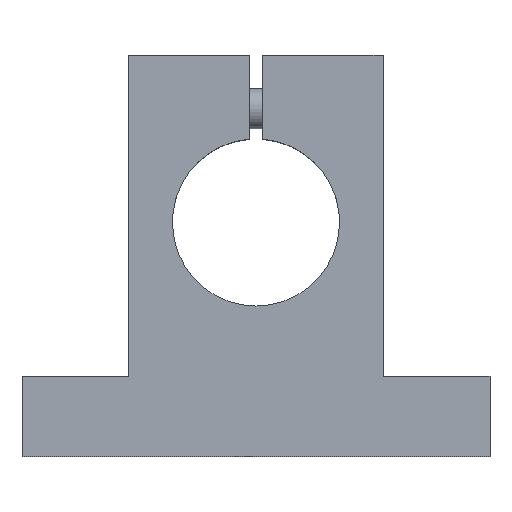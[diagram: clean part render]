
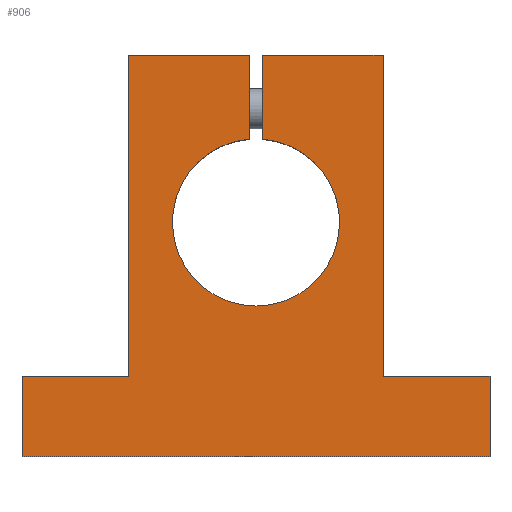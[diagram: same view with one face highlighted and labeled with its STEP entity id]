
A CAD part, top view. The second image highlights one B-rep face of the part: STEP entity #906.
In plain terms, the highlighted planar face has unit normal (0, 0, 1).
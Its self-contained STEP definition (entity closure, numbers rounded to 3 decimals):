
#5 = LINE ( 'NONE', #761, #370 ) ;
#6 = CARTESIAN_POINT ( 'NONE',  ( 0., 0., 0. ) ) ;
#9 = VECTOR ( 'NONE', #698, 1000. ) ;
#13 = VECTOR ( 'NONE', #957, 1000. ) ;
#16 = CIRCLE ( 'NONE', #68, 12.5 ) ;
#57 = CARTESIAN_POINT ( 'NONE',  ( 19., 25., 0. ) ) ;
#63 = CARTESIAN_POINT ( 'NONE',  ( 19., 25., 0. ) ) ;
#68 = AXIS2_PLACEMENT_3D ( 'NONE', #489, #158, #251 ) ;
#77 = LINE ( 'NONE', #449, #13 ) ;
#93 = VERTEX_POINT ( 'NONE', #982 ) ;
#95 = CARTESIAN_POINT ( 'NONE',  ( 1., 0., 0. ) ) ;
#98 = EDGE_CURVE ( 'NONE', #756, #1001, #16, .T. ) ;
#104 = DIRECTION ( 'NONE',  ( 0., 1., 0. ) ) ;
#115 = VERTEX_POINT ( 'NONE', #1087 ) ;
#120 = VERTEX_POINT ( 'NONE', #854 ) ;
#138 = ORIENTED_EDGE ( 'NONE', *, *, #970, .T. ) ;
#143 = EDGE_CURVE ( 'NONE', #474, #307, #916, .T. ) ;
#150 = EDGE_CURVE ( 'NONE', #1001, #732, #925, .T. ) ;
#156 = CARTESIAN_POINT ( 'NONE',  ( -35., -35., 0. ) ) ;
#158 = DIRECTION ( 'NONE',  ( 0., 0., -1. ) ) ;
#159 = VECTOR ( 'NONE', #275, 1000. ) ;
#188 = DIRECTION ( 'NONE',  ( 0., 0., 1. ) ) ;
#199 = VERTEX_POINT ( 'NONE', #495 ) ;
#201 = CARTESIAN_POINT ( 'NONE',  ( -35., -23., 0. ) ) ;
#207 = AXIS2_PLACEMENT_3D ( 'NONE', #6, #188, #357 ) ;
#211 = EDGE_CURVE ( 'NONE', #199, #756, #795, .T. ) ;
#236 = VERTEX_POINT ( 'NONE', #527 ) ;
#241 = LINE ( 'NONE', #497, #570 ) ;
#251 = DIRECTION ( 'NONE',  ( 1., 0., 0. ) ) ;
#264 = LINE ( 'NONE', #286, #727 ) ;
#266 = ORIENTED_EDGE ( 'NONE', *, *, #150, .T. ) ;
#275 = DIRECTION ( 'NONE',  ( -1., 0., 0. ) ) ;
#280 = EDGE_CURVE ( 'NONE', #93, #199, #629, .T. ) ;
#285 = EDGE_CURVE ( 'NONE', #307, #236, #792, .T. ) ;
#286 = CARTESIAN_POINT ( 'NONE',  ( -19., 25., 0. ) ) ;
#307 = VERTEX_POINT ( 'NONE', #712 ) ;
#324 = DIRECTION ( 'NONE',  ( 0., 1., 0. ) ) ;
#336 = ORIENTED_EDGE ( 'NONE', *, *, #98, .T. ) ;
#345 = EDGE_CURVE ( 'NONE', #115, #120, #264, .T. ) ;
#347 = CARTESIAN_POINT ( 'NONE',  ( 19., -23., 0. ) ) ;
#357 = DIRECTION ( 'NONE',  ( 1., 0., 0. ) ) ;
#369 = ORIENTED_EDGE ( 'NONE', *, *, #719, .T. ) ;
#370 = VECTOR ( 'NONE', #438, 1000. ) ;
#397 = LINE ( 'NONE', #57, #1038 ) ;
#420 = CARTESIAN_POINT ( 'NONE',  ( 19., -23., 0. ) ) ;
#435 = ORIENTED_EDGE ( 'NONE', *, *, #481, .T. ) ;
#438 = DIRECTION ( 'NONE',  ( 0., -1., 0. ) ) ;
#441 = FACE_OUTER_BOUND ( 'NONE', #499, .T. ) ;
#449 = CARTESIAN_POINT ( 'NONE',  ( 35., -23., 0. ) ) ;
#474 = VERTEX_POINT ( 'NONE', #156 ) ;
#481 = EDGE_CURVE ( 'NONE', #236, #730, #77, .T. ) ;
#489 = CARTESIAN_POINT ( 'NONE',  ( 0., 0., 0. ) ) ;
#495 = CARTESIAN_POINT ( 'NONE',  ( 1., 12.46, 0. ) ) ;
#497 = CARTESIAN_POINT ( 'NONE',  ( -19., -23., 0. ) ) ;
#499 = EDGE_LOOP ( 'NONE', ( #731, #819, #336, #266, #895, #833, #645, #369, #638, #524, #435, #780, #138 ) ) ;
#524 = ORIENTED_EDGE ( 'NONE', *, *, #285, .T. ) ;
#527 = CARTESIAN_POINT ( 'NONE',  ( 35., -23., 0. ) ) ;
#538 = EDGE_CURVE ( 'NONE', #730, #927, #1115, .T. ) ;
#570 = VECTOR ( 'NONE', #787, 1000. ) ;
#629 = LINE ( 'NONE', #95, #849 ) ;
#638 = ORIENTED_EDGE ( 'NONE', *, *, #143, .T. ) ;
#645 = ORIENTED_EDGE ( 'NONE', *, *, #1079, .T. ) ;
#698 = DIRECTION ( 'NONE',  ( 0., 1., 0. ) ) ;
#708 = LINE ( 'NONE', #1054, #159 ) ;
#712 = CARTESIAN_POINT ( 'NONE',  ( 35., -35., 0. ) ) ;
#719 = EDGE_CURVE ( 'NONE', #1021, #474, #5, .T. ) ;
#727 = VECTOR ( 'NONE', #735, 1000. ) ;
#730 = VERTEX_POINT ( 'NONE', #420 ) ;
#731 = ORIENTED_EDGE ( 'NONE', *, *, #280, .T. ) ;
#732 = VERTEX_POINT ( 'NONE', #766 ) ;
#735 = DIRECTION ( 'NONE',  ( 0., -1., 0. ) ) ;
#749 = CARTESIAN_POINT ( 'NONE',  ( 0., 0., 0. ) ) ;
#756 = VERTEX_POINT ( 'NONE', #1036 ) ;
#761 = CARTESIAN_POINT ( 'NONE',  ( -35., -23., 0. ) ) ;
#766 = CARTESIAN_POINT ( 'NONE',  ( -1., 25., 0. ) ) ;
#778 = DIRECTION ( 'NONE',  ( 0., -1., 0. ) ) ;
#780 = ORIENTED_EDGE ( 'NONE', *, *, #538, .T. ) ;
#787 = DIRECTION ( 'NONE',  ( -1., 0., 0. ) ) ;
#788 = PLANE ( 'NONE',  #207 ) ;
#792 = LINE ( 'NONE', #1124, #888 ) ;
#795 = CIRCLE ( 'NONE', #980, 12.5 ) ;
#797 = VECTOR ( 'NONE', #324, 1000. ) ;
#819 = ORIENTED_EDGE ( 'NONE', *, *, #211, .T. ) ;
#832 = CARTESIAN_POINT ( 'NONE',  ( -1., 12.5, 0. ) ) ;
#833 = ORIENTED_EDGE ( 'NONE', *, *, #345, .T. ) ;
#849 = VECTOR ( 'NONE', #778, 1000. ) ;
#854 = CARTESIAN_POINT ( 'NONE',  ( -19., -23., 0. ) ) ;
#888 = VECTOR ( 'NONE', #104, 1000. ) ;
#895 = ORIENTED_EDGE ( 'NONE', *, *, #912, .T. ) ;
#906 = ADVANCED_FACE ( 'NONE', ( #441 ), #788, .T. ) ;
#912 = EDGE_CURVE ( 'NONE', #732, #115, #708, .T. ) ;
#916 = LINE ( 'NONE', #1108, #965 ) ;
#925 = LINE ( 'NONE', #832, #797 ) ;
#927 = VERTEX_POINT ( 'NONE', #63 ) ;
#957 = DIRECTION ( 'NONE',  ( -1., 0., 0. ) ) ;
#965 = VECTOR ( 'NONE', #1023, 1000. ) ;
#970 = EDGE_CURVE ( 'NONE', #927, #93, #397, .T. ) ;
#979 = CARTESIAN_POINT ( 'NONE',  ( -1., 12.46, 0. ) ) ;
#980 = AXIS2_PLACEMENT_3D ( 'NONE', #749, #1090, #1012 ) ;
#982 = CARTESIAN_POINT ( 'NONE',  ( 1., 25., 0. ) ) ;
#1001 = VERTEX_POINT ( 'NONE', #979 ) ;
#1012 = DIRECTION ( 'NONE',  ( 1., 0., 0. ) ) ;
#1021 = VERTEX_POINT ( 'NONE', #201 ) ;
#1023 = DIRECTION ( 'NONE',  ( 1., 0., 0. ) ) ;
#1036 = CARTESIAN_POINT ( 'NONE',  ( 0., -12.5, 0. ) ) ;
#1038 = VECTOR ( 'NONE', #1076, 1000. ) ;
#1054 = CARTESIAN_POINT ( 'NONE',  ( 19., 25., 0. ) ) ;
#1076 = DIRECTION ( 'NONE',  ( -1., 0., 0. ) ) ;
#1079 = EDGE_CURVE ( 'NONE', #120, #1021, #241, .T. ) ;
#1087 = CARTESIAN_POINT ( 'NONE',  ( -19., 25., 0. ) ) ;
#1090 = DIRECTION ( 'NONE',  ( 0., 0., -1. ) ) ;
#1108 = CARTESIAN_POINT ( 'NONE',  ( -35., -35., 0. ) ) ;
#1115 = LINE ( 'NONE', #347, #9 ) ;
#1124 = CARTESIAN_POINT ( 'NONE',  ( 35., -35., 0. ) ) ;
